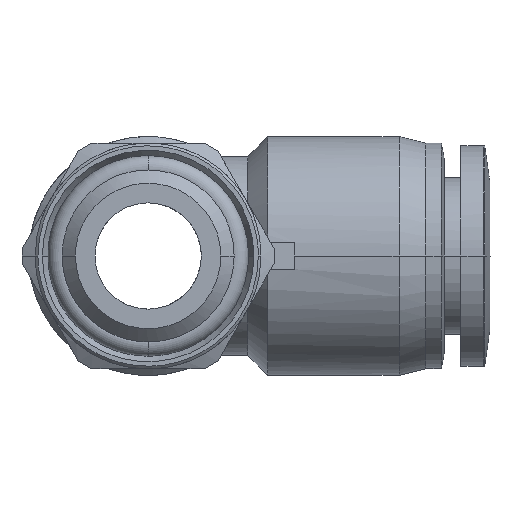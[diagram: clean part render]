
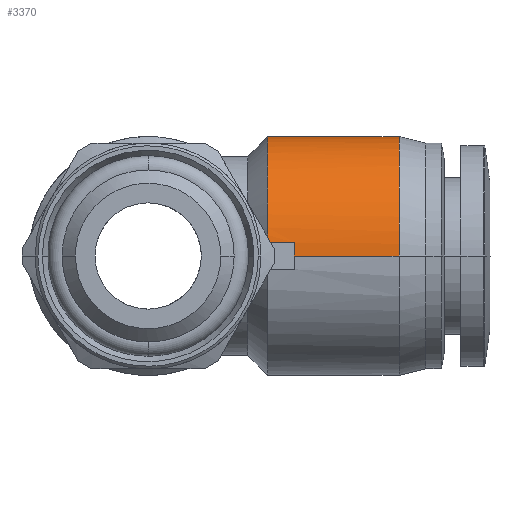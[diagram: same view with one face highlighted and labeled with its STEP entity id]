
A CAD part, front view. The second image highlights one B-rep face of the part: STEP entity #3370.
In plain terms, the highlighted cylindrical face has radius 9 mm (diameter 18 mm), a partial arc.
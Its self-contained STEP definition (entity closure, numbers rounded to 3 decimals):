
#83 = CARTESIAN_POINT ( 'NONE',  ( 9., 21.234, 8.017 ) ) ;
#104 = CARTESIAN_POINT ( 'NONE',  ( 18.9, 15.822, 9. ) ) ;
#181 = VERTEX_POINT ( 'NONE', #5677 ) ;
#285 = LINE ( 'NONE', #3175, #1334 ) ;
#318 = CARTESIAN_POINT ( 'NONE',  ( 11., 8., 0.333 ) ) ;
#371 = EDGE_CURVE ( 'NONE', #4564, #3063, #1830, .T. ) ;
#395 = ORIENTED_EDGE ( 'NONE', *, *, #4128, .F. ) ;
#457 = CARTESIAN_POINT ( 'NONE',  ( 18.9, 26., 0. ) ) ;
#491 = EDGE_CURVE ( 'NONE', #1958, #181, #3697, .T. ) ;
#527 = CARTESIAN_POINT ( 'NONE',  ( 9., 18.095, 9. ) ) ;
#549 = CARTESIAN_POINT ( 'NONE',  ( 18.9, 25.766, 2.356 ) ) ;
#592 = CARTESIAN_POINT ( 'NONE',  ( 9., 10.184, 5.978 ) ) ;
#622 = CARTESIAN_POINT ( 'NONE',  ( 9., 23.816, 5.978 ) ) ;
#624 = CARTESIAN_POINT ( 'NONE',  ( 11.556, 25.944, 1. ) ) ;
#654 = CARTESIAN_POINT ( 'NONE',  ( 9., 8.177, 2.088 ) ) ;
#887 = CARTESIAN_POINT ( 'NONE',  ( 9., 25.944, 1. ) ) ;
#930 = B_SPLINE_CURVE_WITH_KNOTS ( 'NONE', 3,
 ( #2465, #3499, #3371, #4391, #622, #4955, #83, #3914, #527, #5830, #5401, #2998, #1525, #592, #3435, #5369, #654, #2499 ),
 .UNSPECIFIED., .F., .F.,
 ( 4, 2, 2, 2, 2, 2, 2, 2, 4 ),
 ( 0., 0.125, 0.25, 0.375, 0.5, 0.625, 0.75, 0.875, 1. ),
 .UNSPECIFIED. ) ;
#1084 = ORIENTED_EDGE ( 'NONE', *, *, #491, .F. ) ;
#1105 = CARTESIAN_POINT ( 'NONE',  ( 18.9, 8., 0. ) ) ;
#1119 = B_SPLINE_CURVE_WITH_KNOTS ( 'NONE', 3,
 ( #887, #2226, #4150, #5995 ),
 .UNSPECIFIED., .F., .F.,
 ( 4, 4 ),
 ( 0., 1. ),
 .UNSPECIFIED. ) ;
#1127 = EDGE_CURVE ( 'NONE', #181, #1301, #5201, .T. ) ;
#1135 = CARTESIAN_POINT ( 'NONE',  ( 18.9, 26., 1.178 ) ) ;
#1301 = VERTEX_POINT ( 'NONE', #2094 ) ;
#1334 = VECTOR ( 'NONE', #2164, 1000. ) ;
#1525 = CARTESIAN_POINT ( 'NONE',  ( 9., 11.816, 7.438 ) ) ;
#1547 = CARTESIAN_POINT ( 'NONE',  ( 18.9, 9.136, 4.533 ) ) ;
#1830 = B_SPLINE_CURVE_WITH_KNOTS ( 'NONE', 3,
 ( #4849, #1135, #549, #3903, #3424, #5356, #2519, #3015, #2956, #104, #5882, #5852, #3050, #2013, #1547, #4913, #4438, #1105 ),
 .UNSPECIFIED., .F., .F.,
 ( 4, 2, 2, 2, 2, 2, 2, 2, 4 ),
 ( 0., 0.062, 0.125, 0.187, 0.25, 0.312, 0.375, 0.437, 0.5 ),
 .UNSPECIFIED. ) ;
#1858 = CARTESIAN_POINT ( 'NONE',  ( 9., 8.056, 1. ) ) ;
#1932 = VECTOR ( 'NONE', #4623, 1000. ) ;
#1958 = VERTEX_POINT ( 'NONE', #6103 ) ;
#1995 = CARTESIAN_POINT ( 'NONE',  ( 9., 25.944, 1. ) ) ;
#2013 = CARTESIAN_POINT ( 'NONE',  ( 18.9, 9.803, 5.531 ) ) ;
#2060 = CARTESIAN_POINT ( 'NONE',  ( 11.5, 26., 0.333 ) ) ;
#2094 = CARTESIAN_POINT ( 'NONE',  ( 9., 8.056, 1. ) ) ;
#2164 = DIRECTION ( 'NONE',  ( 1., 0., 0. ) ) ;
#2177 = EDGE_CURVE ( 'NONE', #2711, #2750, #1119, .T. ) ;
#2226 = CARTESIAN_POINT ( 'NONE',  ( 9.852, 25.944, 1. ) ) ;
#2326 = CARTESIAN_POINT ( 'NONE',  ( 11.556, 25.944, 1. ) ) ;
#2465 = CARTESIAN_POINT ( 'NONE',  ( 9., 25.944, 1. ) ) ;
#2499 = CARTESIAN_POINT ( 'NONE',  ( 9., 8.056, 1. ) ) ;
#2519 = CARTESIAN_POINT ( 'NONE',  ( 18.9, 21.533, 7.864 ) ) ;
#2526 = EDGE_LOOP ( 'NONE', ( #1084, #4880, #6137, #4379, #395, #5110, #3496, #2576 ) ) ;
#2566 = CYLINDRICAL_SURFACE ( 'NONE', #3654, 9. ) ;
#2576 = ORIENTED_EDGE ( 'NONE', *, *, #1127, .F. ) ;
#2640 = CARTESIAN_POINT ( 'NONE',  ( 11.018, 8.018, 0.667 ) ) ;
#2703 = CARTESIAN_POINT ( 'NONE',  ( 13.95, 26., 0. ) ) ;
#2711 = VERTEX_POINT ( 'NONE', #1995 ) ;
#2727 = CARTESIAN_POINT ( 'NONE',  ( 11.5, 26., 0. ) ) ;
#2750 = VERTEX_POINT ( 'NONE', #624 ) ;
#2797 = CARTESIAN_POINT ( 'NONE',  ( 11.5, 26., 0. ) ) ;
#2860 = CARTESIAN_POINT ( 'NONE',  ( 10.37, 8.056, 1. ) ) ;
#2956 = CARTESIAN_POINT ( 'NONE',  ( 18.9, 18.178, 9. ) ) ;
#2998 = CARTESIAN_POINT ( 'NONE',  ( 9., 12.766, 8.017 ) ) ;
#3015 = CARTESIAN_POINT ( 'NONE',  ( 18.9, 19.356, 8.766 ) ) ;
#3050 = CARTESIAN_POINT ( 'NONE',  ( 18.9, 11.469, 7.197 ) ) ;
#3063 = VERTEX_POINT ( 'NONE', #5130 ) ;
#3067 = FACE_OUTER_BOUND ( 'NONE', #2526, .T. ) ;
#3080 = CARTESIAN_POINT ( 'NONE',  ( 11.056, 8.056, 1. ) ) ;
#3175 = CARTESIAN_POINT ( 'NONE',  ( 13.95, 8., 0. ) ) ;
#3353 = CARTESIAN_POINT ( 'NONE',  ( 9.685, 8.056, 1. ) ) ;
#3370 = ADVANCED_FACE ( 'NONE', ( #3067 ), #2566, .T. ) ;
#3371 = CARTESIAN_POINT ( 'NONE',  ( 9., 25.5, 3.153 ) ) ;
#3408 = B_SPLINE_CURVE_WITH_KNOTS ( 'NONE', 3,
 ( #2326, #5804, #2060, #2797 ),
 .UNSPECIFIED., .F., .F.,
 ( 4, 4 ),
 ( 0., 0.5 ),
 .UNSPECIFIED. ) ;
#3424 = CARTESIAN_POINT ( 'NONE',  ( 18.9, 24.197, 5.531 ) ) ;
#3435 = CARTESIAN_POINT ( 'NONE',  ( 9., 9.503, 5.098 ) ) ;
#3496 = ORIENTED_EDGE ( 'NONE', *, *, #6035, .T. ) ;
#3499 = CARTESIAN_POINT ( 'NONE',  ( 9., 25.823, 2.088 ) ) ;
#3534 = CARTESIAN_POINT ( 'NONE',  ( 13.95, 17., 0. ) ) ;
#3654 = AXIS2_PLACEMENT_3D ( 'NONE', #3534, #4553, #5528 ) ;
#3675 = CARTESIAN_POINT ( 'NONE',  ( 11., 8., 0. ) ) ;
#3697 = B_SPLINE_CURVE_WITH_KNOTS ( 'NONE', 3,
 ( #3675, #318, #2640, #3080 ),
 .UNSPECIFIED., .F., .F.,
 ( 4, 4 ),
 ( 0.5, 1. ),
 .UNSPECIFIED. ) ;
#3739 = CARTESIAN_POINT ( 'NONE',  ( 11.056, 8.056, 1. ) ) ;
#3903 = CARTESIAN_POINT ( 'NONE',  ( 18.9, 24.864, 4.533 ) ) ;
#3914 = CARTESIAN_POINT ( 'NONE',  ( 9., 19.189, 8.798 ) ) ;
#4128 = EDGE_CURVE ( 'NONE', #2750, #5272, #3408, .T. ) ;
#4150 = CARTESIAN_POINT ( 'NONE',  ( 10.704, 25.944, 1. ) ) ;
#4379 = ORIENTED_EDGE ( 'NONE', *, *, #5778, .F. ) ;
#4391 = CARTESIAN_POINT ( 'NONE',  ( 9., 24.497, 5.098 ) ) ;
#4438 = CARTESIAN_POINT ( 'NONE',  ( 18.9, 8., 1.178 ) ) ;
#4553 = DIRECTION ( 'NONE',  ( 1., 0., 0. ) ) ;
#4564 = VERTEX_POINT ( 'NONE', #457 ) ;
#4623 = DIRECTION ( 'NONE',  ( 1., 0., 0. ) ) ;
#4849 = CARTESIAN_POINT ( 'NONE',  ( 18.9, 26., 0. ) ) ;
#4880 = ORIENTED_EDGE ( 'NONE', *, *, #5741, .T. ) ;
#4913 = CARTESIAN_POINT ( 'NONE',  ( 18.9, 8.234, 2.356 ) ) ;
#4955 = CARTESIAN_POINT ( 'NONE',  ( 9., 22.184, 7.438 ) ) ;
#5102 = LINE ( 'NONE', #2703, #1932 ) ;
#5110 = ORIENTED_EDGE ( 'NONE', *, *, #2177, .F. ) ;
#5130 = CARTESIAN_POINT ( 'NONE',  ( 18.9, 8., 0. ) ) ;
#5201 = B_SPLINE_CURVE_WITH_KNOTS ( 'NONE', 3,
 ( #3739, #2860, #3353, #1858 ),
 .UNSPECIFIED., .F., .F.,
 ( 4, 4 ),
 ( 0., 1. ),
 .UNSPECIFIED. ) ;
#5272 = VERTEX_POINT ( 'NONE', #2727 ) ;
#5356 = CARTESIAN_POINT ( 'NONE',  ( 18.9, 22.531, 7.197 ) ) ;
#5369 = CARTESIAN_POINT ( 'NONE',  ( 9., 8.5, 3.153 ) ) ;
#5401 = CARTESIAN_POINT ( 'NONE',  ( 9., 14.811, 8.798 ) ) ;
#5528 = DIRECTION ( 'NONE',  ( 0., 1., 0. ) ) ;
#5677 = CARTESIAN_POINT ( 'NONE',  ( 11.056, 8.056, 1. ) ) ;
#5741 = EDGE_CURVE ( 'NONE', #1958, #3063, #285, .T. ) ;
#5778 = EDGE_CURVE ( 'NONE', #5272, #4564, #5102, .T. ) ;
#5804 = CARTESIAN_POINT ( 'NONE',  ( 11.518, 25.982, 0.667 ) ) ;
#5830 = CARTESIAN_POINT ( 'NONE',  ( 9., 15.905, 9. ) ) ;
#5852 = CARTESIAN_POINT ( 'NONE',  ( 18.9, 12.467, 7.864 ) ) ;
#5882 = CARTESIAN_POINT ( 'NONE',  ( 18.9, 14.644, 8.766 ) ) ;
#5995 = CARTESIAN_POINT ( 'NONE',  ( 11.556, 25.944, 1. ) ) ;
#6035 = EDGE_CURVE ( 'NONE', #2711, #1301, #930, .T. ) ;
#6103 = CARTESIAN_POINT ( 'NONE',  ( 11., 8., 0. ) ) ;
#6137 = ORIENTED_EDGE ( 'NONE', *, *, #371, .F. ) ;
